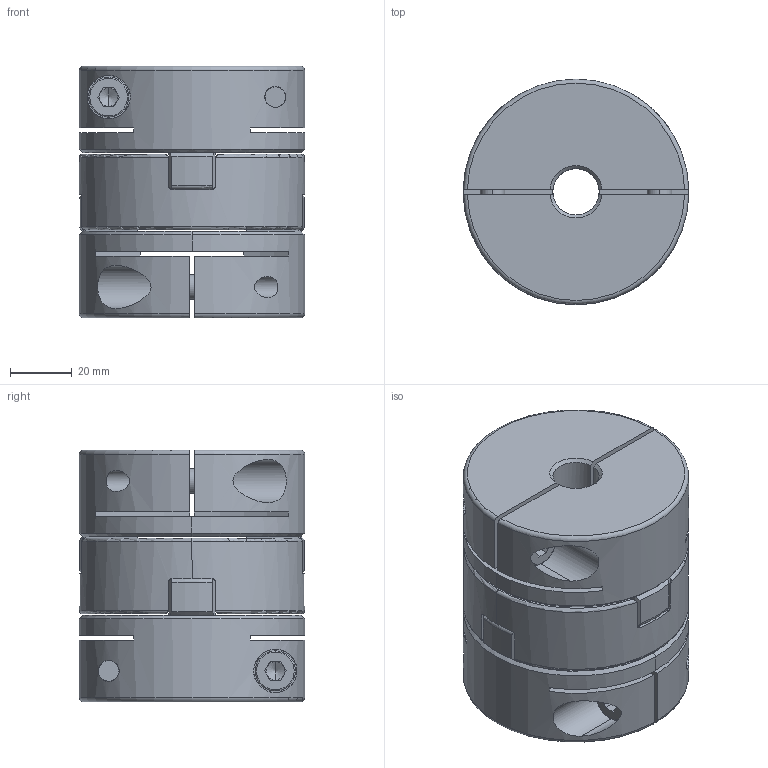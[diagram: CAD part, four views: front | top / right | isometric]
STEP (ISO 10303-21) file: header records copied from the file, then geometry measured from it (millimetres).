
FILE_DESCRIPTION (( 'STEP AP203' ), '1' );
FILE_NAME ('SOH-70C-15X40_203.STEP', '2013-01-30T01:38:01', ( '' ), ( '' ), 'SwSTEP 2.0', 'SolidWorks 2012', '' );
FILE_SCHEMA (( 'CONFIG_CONTROL_DESIGN' ));
Length unit declared in the file: millimetre
Products named in the file (1): SOH-70C-15X40_203
Bounding box: 73 x 73 x 81.5 mm (x, y, z)
Volume: 251436.2 mm3; surface area: 62408.5 mm2
Topology: 1 solids, 1 shells, 325 faces, 836 edges, 496 vertices
Faces by surface type: plane 151, cylinder 92, torus 41, cone 41
Entity records: 10874 total; most frequent: CARTESIAN_POINT 2896, DIRECTION 1689, ORIENTED_EDGE 1656, EDGE_CURVE 828, AXIS2_PLACEMENT_3D 639, VERTEX_POINT 496, LINE 411, VECTOR 411
